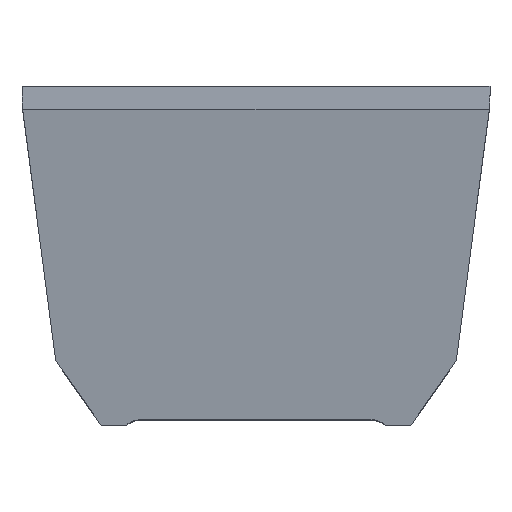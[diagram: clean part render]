
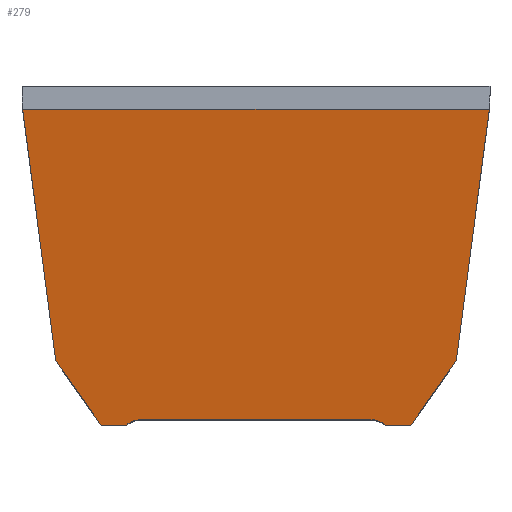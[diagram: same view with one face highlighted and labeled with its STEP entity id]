
A CAD part, top view. The second image highlights one B-rep face of the part: STEP entity #279.
In plain terms, the highlighted planar face has unit normal (0, -0.147, 0.989).
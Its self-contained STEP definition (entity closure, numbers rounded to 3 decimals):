
#14 = LINE ( 'NONE', #2783, #2083 ) ;
#21 = LINE ( 'NONE', #2833, #28 ) ;
#28 = VECTOR ( 'NONE', #2822, 1000. ) ;
#181 = FACE_OUTER_BOUND ( 'NONE', #794, .T. ) ;
#279 = ADVANCED_FACE ( 'NONE', ( #181 ), #2169, .F. ) ;
#794 = EDGE_LOOP ( 'NONE', ( #826, #825, #824, #823, #822, #821, #820, #819, #818, #817, #816, #815 ) ) ;
#815 = ORIENTED_EDGE ( 'NONE', *, *, #1255, .F. ) ;
#816 = ORIENTED_EDGE ( 'NONE', *, *, #1257, .F. ) ;
#817 = ORIENTED_EDGE ( 'NONE', *, *, #1181, .F. ) ;
#818 = ORIENTED_EDGE ( 'NONE', *, *, #1328, .F. ) ;
#819 = ORIENTED_EDGE ( 'NONE', *, *, #1377, .F. ) ;
#820 = ORIENTED_EDGE ( 'NONE', *, *, #1329, .T. ) ;
#821 = ORIENTED_EDGE ( 'NONE', *, *, #1230, .F. ) ;
#822 = ORIENTED_EDGE ( 'NONE', *, *, #1158, .F. ) ;
#823 = ORIENTED_EDGE ( 'NONE', *, *, #1179, .F. ) ;
#824 = ORIENTED_EDGE ( 'NONE', *, *, #1201, .T. ) ;
#825 = ORIENTED_EDGE ( 'NONE', *, *, #1352, .F. ) ;
#826 = ORIENTED_EDGE ( 'NONE', *, *, #1200, .F. ) ;
#1158 = EDGE_CURVE ( 'NONE', #3137, #3149, #21, .T. ) ;
#1179 = EDGE_CURVE ( 'NONE', #3149, #3153, #1853, .T. ) ;
#1181 = EDGE_CURVE ( 'NONE', #3122, #3081, #1848, .T. ) ;
#1200 = EDGE_CURVE ( 'NONE', #3163, #3166, #14, .T. ) ;
#1201 = EDGE_CURVE ( 'NONE', #3162, #3153, #2025, .T. ) ;
#1230 = EDGE_CURVE ( 'NONE', #3116, #3137, #1850, .T. ) ;
#1255 = EDGE_CURVE ( 'NONE', #3166, #3187, #1851, .T. ) ;
#1257 = EDGE_CURVE ( 'NONE', #3187, #3122, #2146, .T. ) ;
#1305 = AXIS2_PLACEMENT_3D ( 'NONE', #3407, #3401, #3400 ) ;
#1328 = EDGE_CURVE ( 'NONE', #3081, #3130, #2101, .T. ) ;
#1329 = EDGE_CURVE ( 'NONE', #3116, #3106, #2084, .T. ) ;
#1352 = EDGE_CURVE ( 'NONE', #3162, #3163, #2062, .T. ) ;
#1377 = EDGE_CURVE ( 'NONE', #3130, #3106, #2041, .T. ) ;
#1848 =( BOUNDED_CURVE ( )  B_SPLINE_CURVE ( 3, ( #2805, #2795, #2794, #2793 ),
 .UNSPECIFIED., .F., .T. ) 
 B_SPLINE_CURVE_WITH_KNOTS ( ( 4, 4 ),
 ( 1.667, 1.702 ),
 .UNSPECIFIED. ) 
 CURVE ( )  GEOMETRIC_REPRESENTATION_ITEM ( )  RATIONAL_B_SPLINE_CURVE ( ( 1., 1., 1., 1. ) ) 
 REPRESENTATION_ITEM ( '' )  );
#1850 =( BOUNDED_CURVE ( )  B_SPLINE_CURVE ( 3, ( #2759, #2740, #2739, #2738 ),
 .UNSPECIFIED., .F., .T. ) 
 B_SPLINE_CURVE_WITH_KNOTS ( ( 4, 4 ),
 ( 5.61, 6.283 ),
 .UNSPECIFIED. ) 
 CURVE ( )  GEOMETRIC_REPRESENTATION_ITEM ( )  RATIONAL_B_SPLINE_CURVE ( ( 1., 0.963, 0.963, 1. ) ) 
 REPRESENTATION_ITEM ( '' )  );
#1851 =( BOUNDED_CURVE ( )  B_SPLINE_CURVE ( 3, ( #2719, #2715, #2714, #2713 ),
 .UNSPECIFIED., .F., .T. ) 
 B_SPLINE_CURVE_WITH_KNOTS ( ( 4, 4 ),
 ( 4.581, 4.616 ),
 .UNSPECIFIED. ) 
 CURVE ( )  GEOMETRIC_REPRESENTATION_ITEM ( )  RATIONAL_B_SPLINE_CURVE ( ( 1., 1., 1., 1. ) ) 
 REPRESENTATION_ITEM ( '' )  );
#1853 =( BOUNDED_CURVE ( )  B_SPLINE_CURVE ( 3, ( #2808, #2802, #2801, #2800 ),
 .UNSPECIFIED., .F., .T. ) 
 B_SPLINE_CURVE_WITH_KNOTS ( ( 4, 4 ),
 ( 0., 0.673 ),
 .UNSPECIFIED. ) 
 CURVE ( )  GEOMETRIC_REPRESENTATION_ITEM ( )  RATIONAL_B_SPLINE_CURVE ( ( 1., 0.963, 0.963, 1. ) ) 
 REPRESENTATION_ITEM ( '' )  );
#2025 = LINE ( 'NONE', #2778, #2122 ) ;
#2040 = VECTOR ( 'NONE', #2582, 1000. ) ;
#2041 = LINE ( 'NONE', #2583, #2040 ) ;
#2061 = VECTOR ( 'NONE', #2614, 1000. ) ;
#2062 = LINE ( 'NONE', #2615, #2061 ) ;
#2082 = VECTOR ( 'NONE', #2638, 1000. ) ;
#2083 = VECTOR ( 'NONE', #2779, 1000. ) ;
#2084 = LINE ( 'NONE', #2639, #2082 ) ;
#2101 = LINE ( 'NONE', #2642, #2106 ) ;
#2106 = VECTOR ( 'NONE', #2641, 1000. ) ;
#2122 = VECTOR ( 'NONE', #2777, 1000. ) ;
#2136 = VECTOR ( 'NONE', #2709, 1000. ) ;
#2146 = LINE ( 'NONE', #2710, #2136 ) ;
#2169 = PLANE ( 'NONE',  #1305 ) ;
#2425 = CARTESIAN_POINT ( 'NONE',  ( -45.11, 56.725, 39. ) ) ;
#2437 = CARTESIAN_POINT ( 'NONE',  ( -44.993, 55.7, 38.848 ) ) ;
#2439 = CARTESIAN_POINT ( 'NONE',  ( -38.738, 8.23, 31.813 ) ) ;
#2440 = CARTESIAN_POINT ( 'NONE',  ( -29.972, -4.3, 29.956 ) ) ;
#2444 = CARTESIAN_POINT ( 'NONE',  ( -25.117, -4.3, 29.956 ) ) ;
#2447 = CARTESIAN_POINT ( 'NONE',  ( -22., -3.21, 30.118 ) ) ;
#2455 = CARTESIAN_POINT ( 'NONE',  ( 22., -3.21, 30.118 ) ) ;
#2459 = CARTESIAN_POINT ( 'NONE',  ( 38.738, 8.23, 31.813 ) ) ;
#2463 = CARTESIAN_POINT ( 'NONE',  ( 45.11, 56.725, 39. ) ) ;
#2466 = CARTESIAN_POINT ( 'NONE',  ( 25.117, -4.3, 29.956 ) ) ;
#2473 = CARTESIAN_POINT ( 'NONE',  ( 29.972, -4.3, 29.956 ) ) ;
#2487 = CARTESIAN_POINT ( 'NONE',  ( 44.993, 55.7, 38.848 ) ) ;
#2582 = DIRECTION ( 'NONE',  ( -0.569, -0.813, -0.121 ) ) ;
#2583 = CARTESIAN_POINT ( 'NONE',  ( 38.099, 7.317, 31.678 ) ) ;
#2614 = DIRECTION ( 'NONE',  ( -0.569, 0.813, 0.121 ) ) ;
#2615 = CARTESIAN_POINT ( 'NONE',  ( -38.099, 7.317, 31.678 ) ) ;
#2638 = DIRECTION ( 'NONE',  ( 1., 0., 0. ) ) ;
#2639 = CARTESIAN_POINT ( 'NONE',  ( -193.612, -4.3, 29.956 ) ) ;
#2641 = DIRECTION ( 'NONE',  ( -0.129, -0.981, -0.145 ) ) ;
#2642 = CARTESIAN_POINT ( 'NONE',  ( 44.686, 53.369, 38.503 ) ) ;
#2709 = DIRECTION ( 'NONE',  ( 1., 0., 0. ) ) ;
#2710 = CARTESIAN_POINT ( 'NONE',  ( -15.25, 56.725, 39. ) ) ;
#2713 = CARTESIAN_POINT ( 'NONE',  ( -45.11, 56.725, 39. ) ) ;
#2714 = CARTESIAN_POINT ( 'NONE',  ( -45.077, 56.383, 38.949 ) ) ;
#2715 = CARTESIAN_POINT ( 'NONE',  ( -45.038, 56.041, 38.899 ) ) ;
#2719 = CARTESIAN_POINT ( 'NONE',  ( -44.993, 55.7, 38.848 ) ) ;
#2738 = CARTESIAN_POINT ( 'NONE',  ( 22., -3.21, 30.118 ) ) ;
#2739 = CARTESIAN_POINT ( 'NONE',  ( 23.144, -3.21, 30.118 ) ) ;
#2740 = CARTESIAN_POINT ( 'NONE',  ( 24.223, -3.587, 30.062 ) ) ;
#2759 = CARTESIAN_POINT ( 'NONE',  ( 25.117, -4.3, 29.956 ) ) ;
#2777 = DIRECTION ( 'NONE',  ( 1., 0., 0. ) ) ;
#2778 = CARTESIAN_POINT ( 'NONE',  ( -193.612, -4.3, 29.956 ) ) ;
#2779 = DIRECTION ( 'NONE',  ( -0.129, 0.981, 0.145 ) ) ;
#2783 = CARTESIAN_POINT ( 'NONE',  ( -44.686, 53.369, 38.503 ) ) ;
#2793 = CARTESIAN_POINT ( 'NONE',  ( 44.993, 55.7, 38.848 ) ) ;
#2794 = CARTESIAN_POINT ( 'NONE',  ( 45.038, 56.041, 38.899 ) ) ;
#2795 = CARTESIAN_POINT ( 'NONE',  ( 45.077, 56.383, 38.949 ) ) ;
#2800 = CARTESIAN_POINT ( 'NONE',  ( -25.117, -4.3, 29.956 ) ) ;
#2801 = CARTESIAN_POINT ( 'NONE',  ( -24.223, -3.587, 30.062 ) ) ;
#2802 = CARTESIAN_POINT ( 'NONE',  ( -23.144, -3.21, 30.118 ) ) ;
#2805 = CARTESIAN_POINT ( 'NONE',  ( 45.11, 56.725, 39. ) ) ;
#2808 = CARTESIAN_POINT ( 'NONE',  ( -22., -3.21, 30.118 ) ) ;
#2822 = DIRECTION ( 'NONE',  ( -1., 0., 0. ) ) ;
#2833 = CARTESIAN_POINT ( 'NONE',  ( -22., -3.21, 30.118 ) ) ;
#3081 = VERTEX_POINT ( 'NONE', #2487 ) ;
#3106 = VERTEX_POINT ( 'NONE', #2473 ) ;
#3116 = VERTEX_POINT ( 'NONE', #2466 ) ;
#3122 = VERTEX_POINT ( 'NONE', #2463 ) ;
#3130 = VERTEX_POINT ( 'NONE', #2459 ) ;
#3137 = VERTEX_POINT ( 'NONE', #2455 ) ;
#3149 = VERTEX_POINT ( 'NONE', #2447 ) ;
#3153 = VERTEX_POINT ( 'NONE', #2444 ) ;
#3162 = VERTEX_POINT ( 'NONE', #2440 ) ;
#3163 = VERTEX_POINT ( 'NONE', #2439 ) ;
#3166 = VERTEX_POINT ( 'NONE', #2437 ) ;
#3187 = VERTEX_POINT ( 'NONE', #2425 ) ;
#3400 = DIRECTION ( 'NONE',  ( 0., -0.989, -0.147 ) ) ;
#3401 = DIRECTION ( 'NONE',  ( 0., 0.147, -0.989 ) ) ;
#3407 = CARTESIAN_POINT ( 'NONE',  ( -193.612, 56.725, 39. ) ) ;
